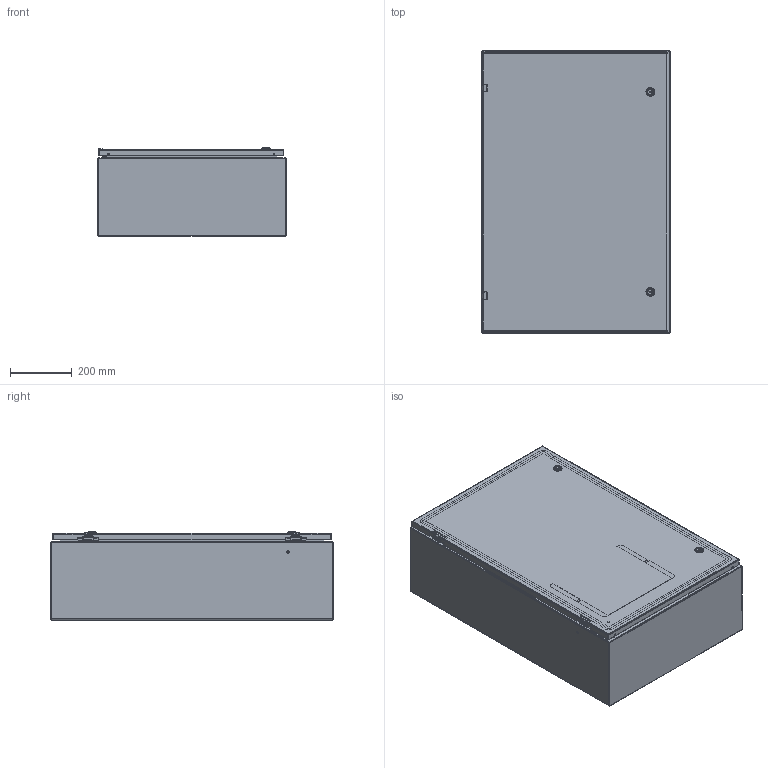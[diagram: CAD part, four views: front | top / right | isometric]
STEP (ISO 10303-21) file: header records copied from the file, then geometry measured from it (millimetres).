
FILE_DESCRIPTION((''),'2;1');
FILE_NAME('MODEL-305_ASM','2022-12-16T10:43:58',('johnh'),('SAGINAW CONTROL & ENGINEERING'),'CREO PARAMETRIC BY PTC INC, 2021284','CREO PARAMETRIC BY PTC INC, 2021284','');
FILE_SCHEMA(('AUTOMOTIVE_DESIGN { 1 0 10303 214 1 1 1 1 }'));
Length unit declared in the file: inch
Products named in the file (28): MODEL-305-BDY; MODEL-305-TP; MODEL-305-BTM; MODEL-305-DR; 100837; 100882; 111267; 100794_SHAFT; 100794_INSERT; 100794_CAM; 100794_NUT; 100794_SCREW; 100794_ASM; MODEL-305-DOOR-GASKET; 126391; 126391_ASM; 126393; 102483; 101226; 101376; 102140; MODEL-305-DOOR-ASSY_ASM; 101653; 122192; SUBPANEL; 100904; SUBPANEL-SUBASSEMBLY_ASM; MODEL-305_ASM
Assembly tree (52 placements, depth 4):
  MODEL-305_ASM
    MODEL-305-BDY
    MODEL-305-TP
    MODEL-305-BTM
    MODEL-305-DOOR-ASSY_ASM
      MODEL-305-DR
      100837  x3
      100882  x2
      111267
      100794_ASM  x2
        100794_SHAFT
        100794_INSERT
        100794_CAM
        100794_NUT
        100794_SCREW
      MODEL-305-DOOR-GASKET
      126391_ASM  x2
        126391
      126393  x2
      102483  x6
      101226  x2
      101376  x2
      102140  x2
    100837
    101653  x6
    122192
    SUBPANEL-SUBASSEMBLY_ASM
      SUBPANEL
      100904  x6
Bounding box: 609.6 x 914.4 x 285.13 mm (x, y, z)
Volume: 6004838.2 mm3; surface area: 5475080 mm2
Topology: 53 solids, 53 shells, 3197 faces, 8066 edges, 5048 vertices
Faces by surface type: plane 1382, cylinder 881, bspline 500, torus 250, cone 112, sphere 72
Entity records: 86326 total; most frequent: CARTESIAN_POINT 25299, ORIENTED_EDGE 8850, DIRECTION 8270, PRESENTATION_STYLE_ASSIGNMENT 4622, EDGE_CURVE 4425, STYLED_ITEM 4347, CURVE_STYLE 4263, AXIS2_PLACEMENT_3D 3002
